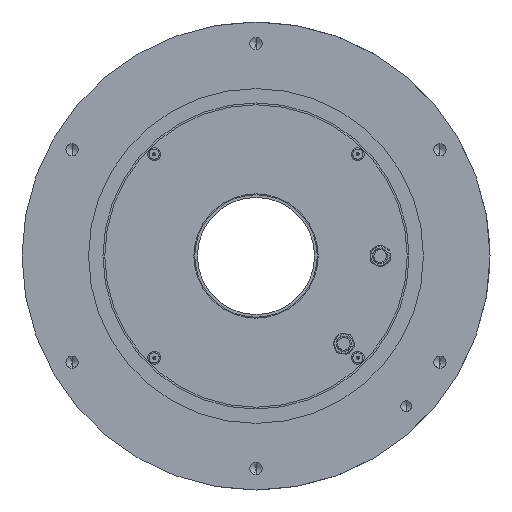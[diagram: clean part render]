
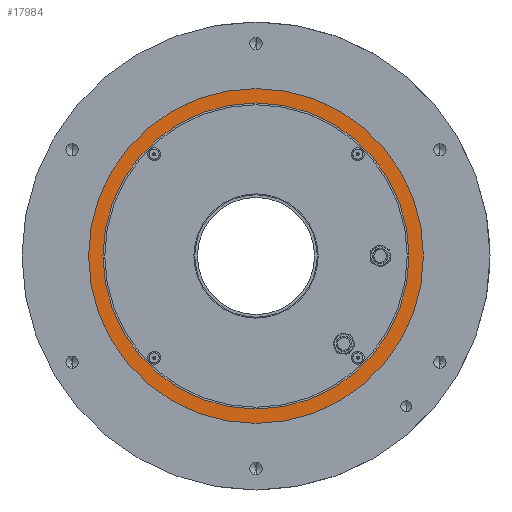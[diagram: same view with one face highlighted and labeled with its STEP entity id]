
A CAD part, front view. The second image highlights one B-rep face of the part: STEP entity #17984.
In plain terms, the highlighted planar face has unit normal (0, -1, 0).
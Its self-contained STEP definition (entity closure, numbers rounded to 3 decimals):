
#165 = AXIS2_PLACEMENT_3D ( 'NONE', #18674, #15222, #16858 ) ;
#406 = VERTEX_POINT ( 'NONE', #5580 ) ;
#749 = FACE_OUTER_BOUND ( 'NONE', #8569, .T. ) ;
#882 = CARTESIAN_POINT ( 'NONE',  ( 0., -3., 0. ) ) ;
#1052 = DIRECTION ( 'NONE',  ( 0., 0., -1. ) ) ;
#2934 = AXIS2_PLACEMENT_3D ( 'NONE', #14475, #3479, #9680 ) ;
#3089 = ORIENTED_EDGE ( 'NONE', *, *, #19207, .T. ) ;
#3479 = DIRECTION ( 'NONE',  ( 0., -1., 0. ) ) ;
#3833 = ORIENTED_EDGE ( 'NONE', *, *, #10869, .T. ) ;
#3931 = CARTESIAN_POINT ( 'NONE',  ( 0., -3., -93. ) ) ;
#4210 = CARTESIAN_POINT ( 'NONE',  ( 0., -3., 0. ) ) ;
#4764 = DIRECTION ( 'NONE',  ( 0., -1., 0. ) ) ;
#4885 = CIRCLE ( 'NONE', #2934, 93. ) ;
#4957 = VERTEX_POINT ( 'NONE', #3931 ) ;
#5580 = CARTESIAN_POINT ( 'NONE',  ( 0., -3., -85. ) ) ;
#5721 = AXIS2_PLACEMENT_3D ( 'NONE', #882, #7266, #8600 ) ;
#5730 = PLANE ( 'NONE',  #10922 ) ;
#7266 = DIRECTION ( 'NONE',  ( 0., -1., 0. ) ) ;
#7568 = ORIENTED_EDGE ( 'NONE', *, *, #17027, .F. ) ;
#8018 = DIRECTION ( 'NONE',  ( 0., 0., -1. ) ) ;
#8205 = CARTESIAN_POINT ( 'NONE',  ( 0., -3., 0. ) ) ;
#8569 = EDGE_LOOP ( 'NONE', ( #3089, #3833 ) ) ;
#8600 = DIRECTION ( 'NONE',  ( 0., 0., -1. ) ) ;
#8621 = EDGE_LOOP ( 'NONE', ( #13339, #7568 ) ) ;
#9680 = DIRECTION ( 'NONE',  ( 0., 0., -1. ) ) ;
#10003 = EDGE_CURVE ( 'NONE', #406, #12472, #12886, .T. ) ;
#10869 = EDGE_CURVE ( 'NONE', #4957, #15909, #4885, .T. ) ;
#10922 = AXIS2_PLACEMENT_3D ( 'NONE', #4210, #15017, #1052 ) ;
#11215 = CIRCLE ( 'NONE', #165, 85. ) ;
#11700 = CARTESIAN_POINT ( 'NONE',  ( 0., -3., 85. ) ) ;
#12472 = VERTEX_POINT ( 'NONE', #11700 ) ;
#12886 = CIRCLE ( 'NONE', #19714, 85. ) ;
#13206 = CARTESIAN_POINT ( 'NONE',  ( 0., -3., 93. ) ) ;
#13339 = ORIENTED_EDGE ( 'NONE', *, *, #10003, .F. ) ;
#14475 = CARTESIAN_POINT ( 'NONE',  ( 0., -3., 0. ) ) ;
#14528 = FACE_BOUND ( 'NONE', #8621, .T. ) ;
#15017 = DIRECTION ( 'NONE',  ( 0., -1., 0. ) ) ;
#15222 = DIRECTION ( 'NONE',  ( 0., -1., 0. ) ) ;
#15909 = VERTEX_POINT ( 'NONE', #13206 ) ;
#16858 = DIRECTION ( 'NONE',  ( 0., 0., -1. ) ) ;
#17027 = EDGE_CURVE ( 'NONE', #12472, #406, #11215, .T. ) ;
#17984 = ADVANCED_FACE ( 'NONE', ( #14528, #749 ), #5730, .T. ) ;
#18095 = CIRCLE ( 'NONE', #5721, 93. ) ;
#18674 = CARTESIAN_POINT ( 'NONE',  ( 0., -3., 0. ) ) ;
#19207 = EDGE_CURVE ( 'NONE', #15909, #4957, #18095, .T. ) ;
#19714 = AXIS2_PLACEMENT_3D ( 'NONE', #8205, #4764, #8018 ) ;
